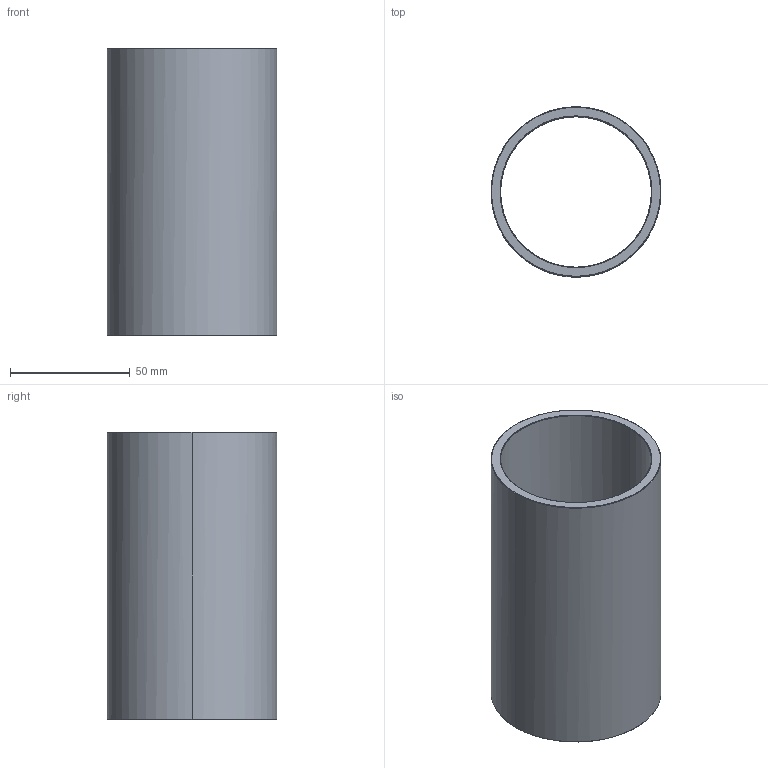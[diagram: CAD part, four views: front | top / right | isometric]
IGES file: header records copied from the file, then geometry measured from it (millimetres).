
Start section: Write IGES format                                    datakit 2008 (c)
Global section: file name: Unknown; native system: DATAKIT Converter; preprocessor: Unknown; author: Unknown; organization: Unknown; date: 950613.180003; units: millimetre
Bounding box: 71 x 70.9 x 120 mm (x, y, z)
Surface area: 52102.1 mm2 (no closed solid volume)
Topology: 0 solids, 0 shells, 14 faces, 56 edges, 56 vertices
Faces by surface type: revolution 12, bspline 2
